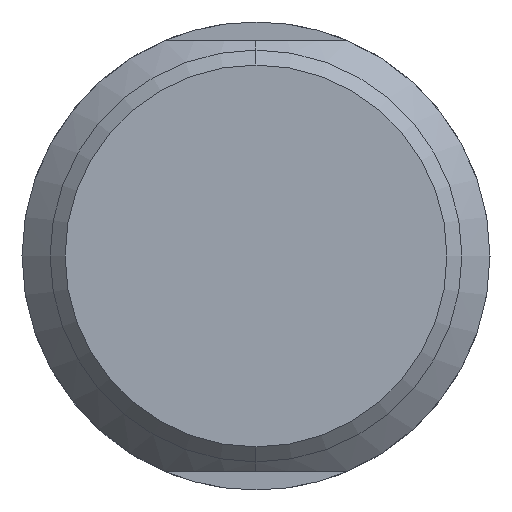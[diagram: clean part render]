
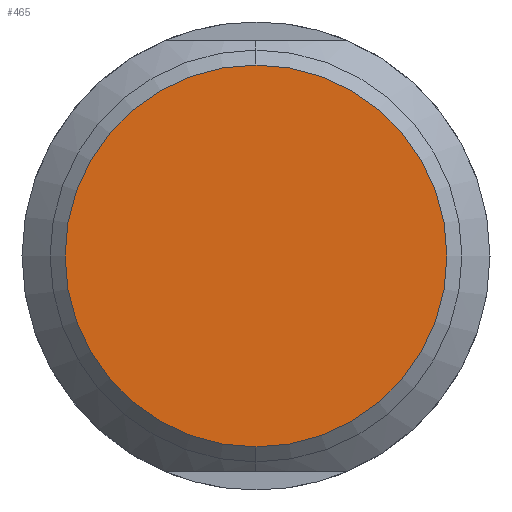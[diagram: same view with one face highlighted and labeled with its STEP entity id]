
A CAD part, left-side view. The second image highlights one B-rep face of the part: STEP entity #465.
In plain terms, the highlighted planar face has unit normal (-1, 0, 0).
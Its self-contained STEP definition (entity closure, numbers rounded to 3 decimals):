
#158 = CIRCLE ( 'NONE', #1215, 10.2 ) ;
#174 = DIRECTION ( 'NONE',  ( 0., 0., 1. ) ) ;
#278 = CARTESIAN_POINT ( 'NONE',  ( -12.6, 0., 0. ) ) ;
#296 = CARTESIAN_POINT ( 'NONE',  ( -12.6, 0., 10.2 ) ) ;
#391 = AXIS2_PLACEMENT_3D ( 'NONE', #278, #1078, #174 ) ;
#449 = DIRECTION ( 'NONE',  ( 0., 0., 1. ) ) ;
#465 = ADVANCED_FACE ( 'NONE', ( #1144 ), #1313, .T. ) ;
#509 = AXIS2_PLACEMENT_3D ( 'NONE', #765, #1217, #449 ) ;
#612 = VERTEX_POINT ( 'NONE', #296 ) ;
#736 = EDGE_CURVE ( 'NONE', #612, #1195, #158, .T. ) ;
#755 = CARTESIAN_POINT ( 'NONE',  ( -12.6, 0., -10.2 ) ) ;
#765 = CARTESIAN_POINT ( 'NONE',  ( -12.6, 0., 0. ) ) ;
#812 = EDGE_CURVE ( 'NONE', #1195, #612, #1393, .T. ) ;
#963 = CARTESIAN_POINT ( 'NONE',  ( -12.6, 0., 0. ) ) ;
#972 = DIRECTION ( 'NONE',  ( -1., 0., 0. ) ) ;
#1008 = DIRECTION ( 'NONE',  ( 0., 0., 1. ) ) ;
#1078 = DIRECTION ( 'NONE',  ( -1., 0., 0. ) ) ;
#1096 = EDGE_LOOP ( 'NONE', ( #1338, #1173 ) ) ;
#1144 = FACE_OUTER_BOUND ( 'NONE', #1096, .T. ) ;
#1173 = ORIENTED_EDGE ( 'NONE', *, *, #736, .T. ) ;
#1195 = VERTEX_POINT ( 'NONE', #755 ) ;
#1215 = AXIS2_PLACEMENT_3D ( 'NONE', #963, #972, #1008 ) ;
#1217 = DIRECTION ( 'NONE',  ( -1., 0., 0. ) ) ;
#1313 = PLANE ( 'NONE',  #509 ) ;
#1338 = ORIENTED_EDGE ( 'NONE', *, *, #812, .T. ) ;
#1393 = CIRCLE ( 'NONE', #391, 10.2 ) ;
